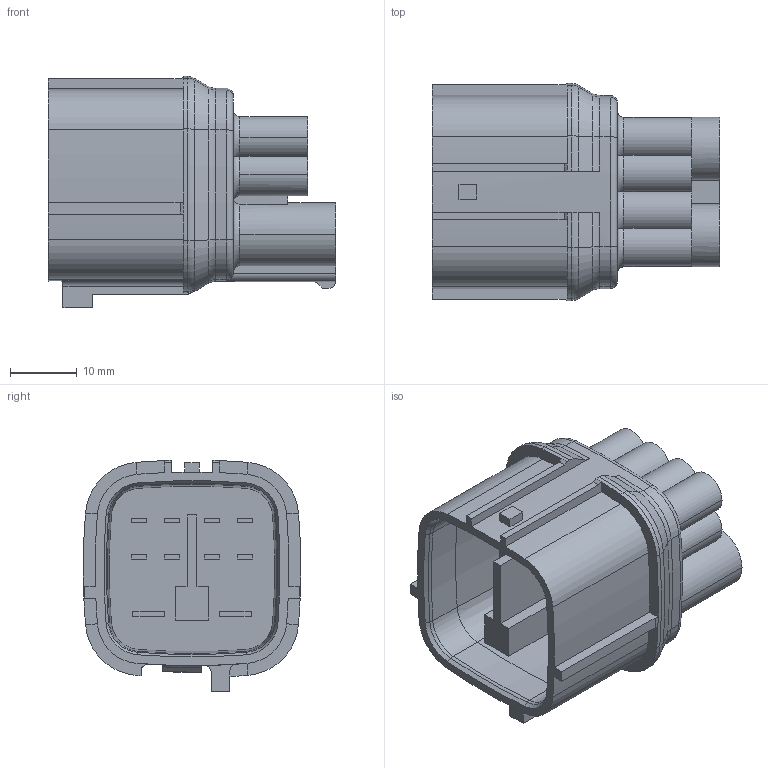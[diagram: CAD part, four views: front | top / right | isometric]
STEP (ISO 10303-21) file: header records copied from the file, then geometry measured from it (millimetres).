
FILE_DESCRIPTION(('CATIA V5 STEP Exchange'),'2;1');
FILE_NAME('N:\C-DAM_MyDesk\ENV\900093\6181-0381.stp','2013-06-18T23:51:43+00:00',('none'),('none'),'CATIA Version 5 Release 20 SP 4 (IN-10)','CATIA V5 STEP AP203','none');
FILE_SCHEMA(('CONFIG_CONTROL_DESIGN'));
Length unit declared in the file: millimetre
Products named in the file (1): 6181-0381
Bounding box: 43.2 x 32.69 x 34.75 mm (x, y, z)
Volume: 19954.6 mm3; surface area: 8554.8 mm2
Topology: 1 solids, 1 shells, 274 faces, 667 edges, 418 vertices
Faces by surface type: plane 117, cylinder 78, torus 46, cone 26, bspline 7
Entity records: 7715 total; most frequent: CARTESIAN_POINT 1705, ORIENTED_EDGE 1334, DIRECTION 1000, EDGE_CURVE 667, AXIS2_PLACEMENT_3D 467, VERTEX_POINT 418, VECTOR 344, LINE 344
